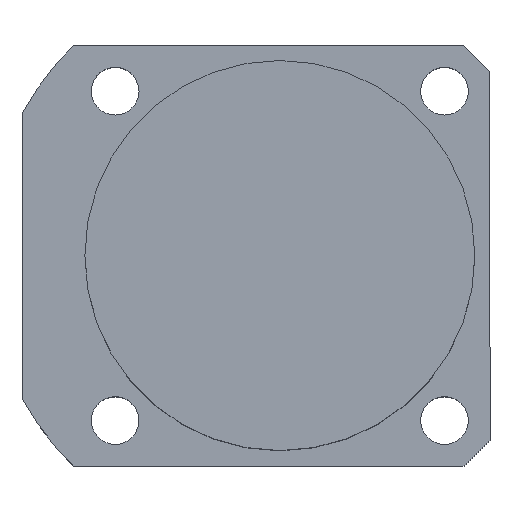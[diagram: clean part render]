
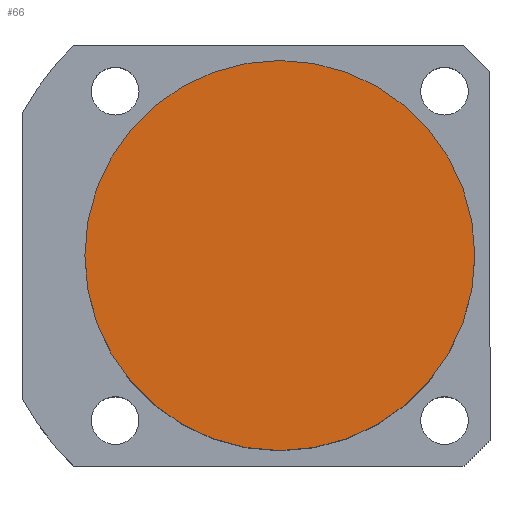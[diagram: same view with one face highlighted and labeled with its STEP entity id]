
A CAD part, top view. The second image highlights one B-rep face of the part: STEP entity #66.
In plain terms, the highlighted planar face has unit normal (0, 0, 1).
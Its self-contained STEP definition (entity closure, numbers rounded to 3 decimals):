
#66 = ADVANCED_FACE ( 'NONE', ( #79 ), #657, .T. ) ;
#79 = FACE_OUTER_BOUND ( 'NONE', #2117, .T. ) ;
#111 = CIRCLE ( 'NONE', #1206, 45. ) ;
#113 = ORIENTED_EDGE ( 'NONE', *, *, #505, .T. ) ;
#114 = CARTESIAN_POINT ( 'NONE',  ( -45., 0., 59.5 ) ) ;
#234 = CIRCLE ( 'NONE', #482, 45. ) ;
#482 = AXIS2_PLACEMENT_3D ( 'NONE', #528, #676, #1380 ) ;
#505 = EDGE_CURVE ( 'NONE', #1015, #1464, #111, .T. ) ;
#528 = CARTESIAN_POINT ( 'NONE',  ( 0., 0., 59.5 ) ) ;
#657 = PLANE ( 'NONE',  #1390 ) ;
#676 = DIRECTION ( 'NONE',  ( 0., 0., 1. ) ) ;
#740 = CARTESIAN_POINT ( 'NONE',  ( 45., 0., 59.5 ) ) ;
#778 = DIRECTION ( 'NONE',  ( 0., 0., 1. ) ) ;
#939 = DIRECTION ( 'NONE',  ( 1., 0., 0. ) ) ;
#998 = DIRECTION ( 'NONE',  ( 0., 0., 1. ) ) ;
#1015 = VERTEX_POINT ( 'NONE', #740 ) ;
#1078 = ORIENTED_EDGE ( 'NONE', *, *, #1274, .T. ) ;
#1140 = CARTESIAN_POINT ( 'NONE',  ( 0., 0., 59.5 ) ) ;
#1206 = AXIS2_PLACEMENT_3D ( 'NONE', #1306, #778, #939 ) ;
#1274 = EDGE_CURVE ( 'NONE', #1464, #1015, #234, .T. ) ;
#1306 = CARTESIAN_POINT ( 'NONE',  ( 0., 0., 59.5 ) ) ;
#1380 = DIRECTION ( 'NONE',  ( 1., 0., 0. ) ) ;
#1390 = AXIS2_PLACEMENT_3D ( 'NONE', #1140, #998, #1849 ) ;
#1464 = VERTEX_POINT ( 'NONE', #114 ) ;
#1849 = DIRECTION ( 'NONE',  ( 1., 0., 0. ) ) ;
#2117 = EDGE_LOOP ( 'NONE', ( #1078, #113 ) ) ;
